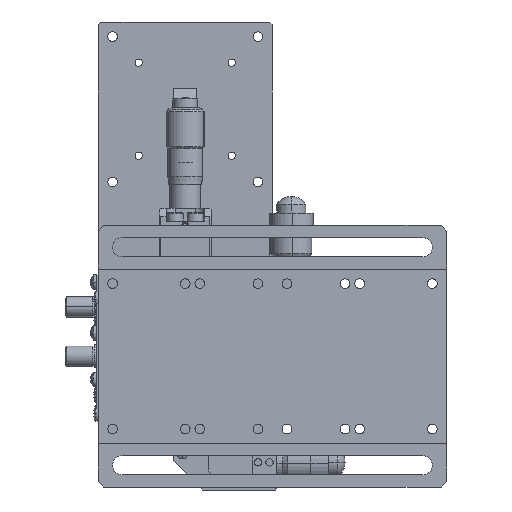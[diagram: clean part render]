
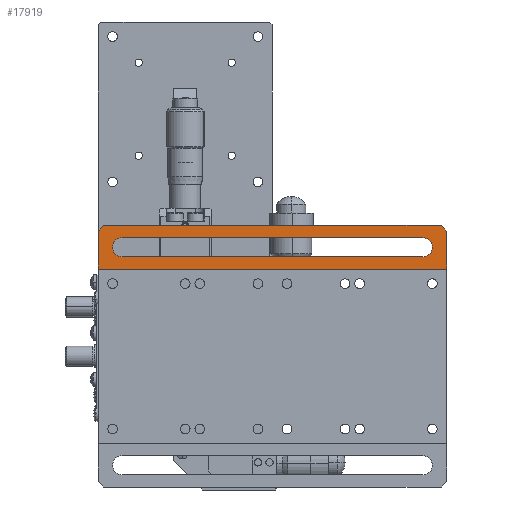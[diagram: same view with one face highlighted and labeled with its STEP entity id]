
A CAD part, front view. The second image highlights one B-rep face of the part: STEP entity #17919.
In plain terms, the highlighted planar face has unit normal (0, -1, 0).
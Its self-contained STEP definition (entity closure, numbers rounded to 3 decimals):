
#623 = VECTOR ( 'NONE', #80072, 1000. ) ;
#657 = CARTESIAN_POINT ( 'NONE',  ( -51.7, 0., 40.8 ) ) ;
#5407 = CARTESIAN_POINT ( 'NONE',  ( 60., 0., 43. ) ) ;
#5558 = VERTEX_POINT ( 'NONE', #22328 ) ;
#6515 = DIRECTION ( 'NONE',  ( 0., 0., 1. ) ) ;
#6736 = VECTOR ( 'NONE', #56884, 1000. ) ;
#6837 = EDGE_CURVE ( 'NONE', #55716, #66402, #43060, .T. ) ;
#7264 = VERTEX_POINT ( 'NONE', #8579 ) ;
#7527 = CARTESIAN_POINT ( 'NONE',  ( -60., 0., 45. ) ) ;
#7711 = CARTESIAN_POINT ( 'NONE',  ( 51.7, 0., 37.5 ) ) ;
#8006 = ORIENTED_EDGE ( 'NONE', *, *, #25019, .F. ) ;
#8509 = LINE ( 'NONE', #30333, #623 ) ;
#8579 = CARTESIAN_POINT ( 'NONE',  ( -51.7, 0., 40.8 ) ) ;
#11215 = ORIENTED_EDGE ( 'NONE', *, *, #56603, .T. ) ;
#13183 = CARTESIAN_POINT ( 'NONE',  ( -51.5, 0., 51.5 ) ) ;
#16717 = VERTEX_POINT ( 'NONE', #5407 ) ;
#17919 = ADVANCED_FACE ( 'NONE', ( #57197, #33703 ), #18575, .T. ) ;
#18543 = DIRECTION ( 'NONE',  ( 0., 1., 0. ) ) ;
#18575 = PLANE ( 'NONE',  #35975 ) ;
#19433 = ORIENTED_EDGE ( 'NONE', *, *, #6837, .F. ) ;
#19569 = AXIS2_PLACEMENT_3D ( 'NONE', #80640, #18543, #6515 ) ;
#19659 = EDGE_LOOP ( 'NONE', ( #45578, #19433, #65747, #38452 ) ) ;
#19735 = CIRCLE ( 'NONE', #19569, 3.3 ) ;
#19838 = ORIENTED_EDGE ( 'NONE', *, *, #50242, .T. ) ;
#19962 = LINE ( 'NONE', #13183, #40619 ) ;
#21384 = LINE ( 'NONE', #62927, #6736 ) ;
#22328 = CARTESIAN_POINT ( 'NONE',  ( -58., 0., 45. ) ) ;
#22674 = CARTESIAN_POINT ( 'NONE',  ( 51.7, 0., 40.8 ) ) ;
#22741 = VERTEX_POINT ( 'NONE', #78749 ) ;
#24057 = CARTESIAN_POINT ( 'NONE',  ( 0., 0., 0. ) ) ;
#25019 = EDGE_CURVE ( 'NONE', #75704, #42348, #61157, .T. ) ;
#25802 = VECTOR ( 'NONE', #43415, 1000. ) ;
#27399 = EDGE_CURVE ( 'NONE', #16717, #22741, #8509, .T. ) ;
#27657 = CARTESIAN_POINT ( 'NONE',  ( 51.7, 0., 34.2 ) ) ;
#28860 = DIRECTION ( 'NONE',  ( 1., 0., 0. ) ) ;
#30127 = VECTOR ( 'NONE', #50499, 1000. ) ;
#30333 = CARTESIAN_POINT ( 'NONE',  ( 60., 0., 45. ) ) ;
#31095 = LINE ( 'NONE', #657, #30127 ) ;
#31971 = ORIENTED_EDGE ( 'NONE', *, *, #36489, .F. ) ;
#33703 = FACE_BOUND ( 'NONE', #19659, .T. ) ;
#35792 = CARTESIAN_POINT ( 'NONE',  ( -60., 0., 30. ) ) ;
#35975 = AXIS2_PLACEMENT_3D ( 'NONE', #24057, #74391, #36725 ) ;
#36489 = EDGE_CURVE ( 'NONE', #5558, #46398, #67373, .T. ) ;
#36725 = DIRECTION ( 'NONE',  ( 0., 0., -1. ) ) ;
#37811 = EDGE_LOOP ( 'NONE', ( #68551, #11215, #31971, #19838, #8006, #56779 ) ) ;
#38452 = ORIENTED_EDGE ( 'NONE', *, *, #56998, .T. ) ;
#39258 = CARTESIAN_POINT ( 'NONE',  ( -51.7, 0., 34.2 ) ) ;
#39517 = EDGE_CURVE ( 'NONE', #48067, #66402, #79157, .T. ) ;
#39834 = EDGE_CURVE ( 'NONE', #22741, #75704, #73285, .T. ) ;
#40619 = VECTOR ( 'NONE', #56984, 1000. ) ;
#42083 = DIRECTION ( 'NONE',  ( -1., 0., 0. ) ) ;
#42348 = VERTEX_POINT ( 'NONE', #46997 ) ;
#43060 = LINE ( 'NONE', #66481, #78454 ) ;
#43415 = DIRECTION ( 'NONE',  ( 0., 0., 1. ) ) ;
#45578 = ORIENTED_EDGE ( 'NONE', *, *, #39517, .T. ) ;
#46398 = VERTEX_POINT ( 'NONE', #76417 ) ;
#46997 = CARTESIAN_POINT ( 'NONE',  ( -60., 0., 43. ) ) ;
#48067 = VERTEX_POINT ( 'NONE', #22674 ) ;
#50242 = EDGE_CURVE ( 'NONE', #5558, #42348, #19962, .T. ) ;
#50499 = DIRECTION ( 'NONE',  ( 1., 0., 0. ) ) ;
#54534 = VECTOR ( 'NONE', #42083, 1000. ) ;
#55716 = VERTEX_POINT ( 'NONE', #39258 ) ;
#56603 = EDGE_CURVE ( 'NONE', #16717, #46398, #21384, .T. ) ;
#56779 = ORIENTED_EDGE ( 'NONE', *, *, #39834, .F. ) ;
#56884 = DIRECTION ( 'NONE',  ( -0.707, 0., 0.707 ) ) ;
#56984 = DIRECTION ( 'NONE',  ( -0.707, 0., -0.707 ) ) ;
#56998 = EDGE_CURVE ( 'NONE', #7264, #48067, #31095, .T. ) ;
#57197 = FACE_OUTER_BOUND ( 'NONE', #37811, .T. ) ;
#61150 = CARTESIAN_POINT ( 'NONE',  ( -60., 0., 45. ) ) ;
#61157 = LINE ( 'NONE', #7527, #25802 ) ;
#62927 = CARTESIAN_POINT ( 'NONE',  ( 51.5, 0., 51.5 ) ) ;
#63344 = DIRECTION ( 'NONE',  ( 0., 1., 0. ) ) ;
#65747 = ORIENTED_EDGE ( 'NONE', *, *, #72280, .T. ) ;
#66402 = VERTEX_POINT ( 'NONE', #27657 ) ;
#66481 = CARTESIAN_POINT ( 'NONE',  ( -51.7, 0., 34.2 ) ) ;
#66671 = DIRECTION ( 'NONE',  ( 1., 0., 0. ) ) ;
#67373 = LINE ( 'NONE', #61150, #78193 ) ;
#68551 = ORIENTED_EDGE ( 'NONE', *, *, #27399, .F. ) ;
#72280 = EDGE_CURVE ( 'NONE', #55716, #7264, #19735, .T. ) ;
#73285 = LINE ( 'NONE', #35792, #54534 ) ;
#74391 = DIRECTION ( 'NONE',  ( 0., -1., 0. ) ) ;
#75704 = VERTEX_POINT ( 'NONE', #79004 ) ;
#76417 = CARTESIAN_POINT ( 'NONE',  ( 58., 0., 45. ) ) ;
#76872 = DIRECTION ( 'NONE',  ( 0., 0., 1. ) ) ;
#77069 = AXIS2_PLACEMENT_3D ( 'NONE', #7711, #63344, #76872 ) ;
#78193 = VECTOR ( 'NONE', #66671, 1000. ) ;
#78454 = VECTOR ( 'NONE', #28860, 1000. ) ;
#78749 = CARTESIAN_POINT ( 'NONE',  ( 60., 0., 30. ) ) ;
#79004 = CARTESIAN_POINT ( 'NONE',  ( -60., 0., 30. ) ) ;
#79157 = CIRCLE ( 'NONE', #77069, 3.3 ) ;
#80072 = DIRECTION ( 'NONE',  ( 0., 0., -1. ) ) ;
#80640 = CARTESIAN_POINT ( 'NONE',  ( -51.7, 0., 37.5 ) ) ;
